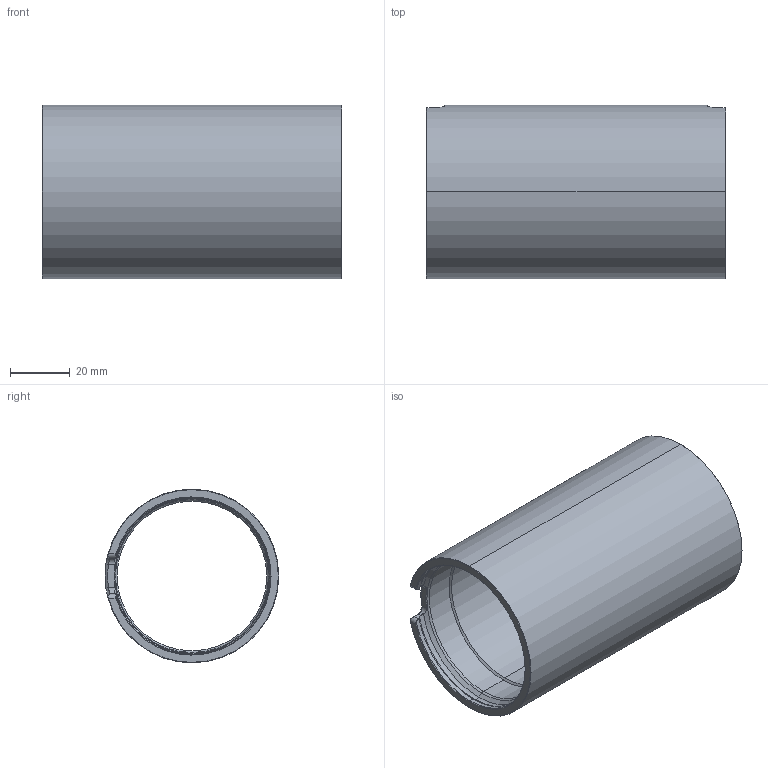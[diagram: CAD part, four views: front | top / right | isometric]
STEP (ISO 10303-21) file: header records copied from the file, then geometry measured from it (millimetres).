
FILE_DESCRIPTION (( 'STEP AP214' ), '1' );
FILE_NAME ('WTE2-LOCKING-TUBE-R1.STEP', '2019-11-12T19:19:03', ( '' ), ( '' ), 'SwSTEP 2.0', 'SolidWorks 2020', '' );
FILE_SCHEMA (( 'AUTOMOTIVE_DESIGN' ));
Length unit declared in the file: millimetre
Products named in the file (1): WTE2-LOCKING-TUBE-R1
Bounding box: 100 x 57.97 x 58 mm (x, y, z)
Volume: 62805.7 mm3; surface area: 35067.6 mm2
Topology: 1 solids, 1 shells, 76 faces, 184 edges, 108 vertices
Faces by surface type: cone 22, cylinder 22, torus 16, plane 12, bspline 4
Entity records: 3061 total; most frequent: CARTESIAN_POINT 1320, ORIENTED_EDGE 368, DIRECTION 354, EDGE_CURVE 184, AXIS2_PLACEMENT_3D 149, VERTEX_POINT 108, EDGE_LOOP 76, ADVANCED_FACE 76
